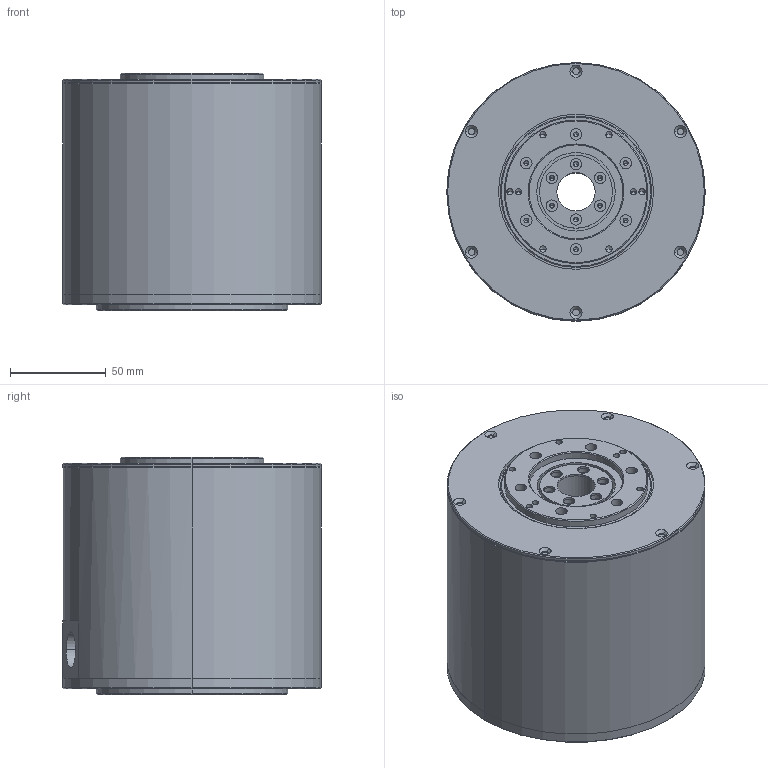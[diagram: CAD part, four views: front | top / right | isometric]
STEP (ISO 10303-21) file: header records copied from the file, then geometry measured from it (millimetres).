
FILE_DESCRIPTION((''),'2;1');
FILE_NAME('PM-DDB09D','2016-02-05T',('jb17719'),(''),'PRO/ENGINEER BY PARAMETRIC TECHNOLOGY CORPORATION, 2008070','PRO/ENGINEER BY PARAMETRIC TECHNOLOGY CORPORATION, 2008070','');
FILE_SCHEMA(('AUTOMOTIVE_DESIGN_CC2 { 1 2 10303 214 -1 1 5 2 }'));
Length unit declared in the file: millimetre
Products named in the file (7): PRT0011; PRT0012; PRT0013; PRT0014; PRT0015; ASM0003; PM-DDB09D
Assembly tree (6 placements, depth 3):
  PM-DDB09D
    ASM0003
      PRT0011
      PRT0012
      PRT0013
      PRT0014
      PRT0015
Bounding box: 135 x 135 x 124 mm (x, y, z)
Volume: 1648414.3 mm3; surface area: 150285.7 mm2
Topology: 5 solids, 5 shells, 344 faces, 812 edges, 476 vertices
Faces by surface type: cylinder 200, cone 98, plane 46
Entity records: 10022 total; most frequent: DIRECTION 1906, CARTESIAN_POINT 1582, ORIENTED_EDGE 1488, AXIS2_PLACEMENT_3D 800, EDGE_CURVE 744, VERTEX_POINT 476, EDGE_LOOP 472, CIRCLE 438
